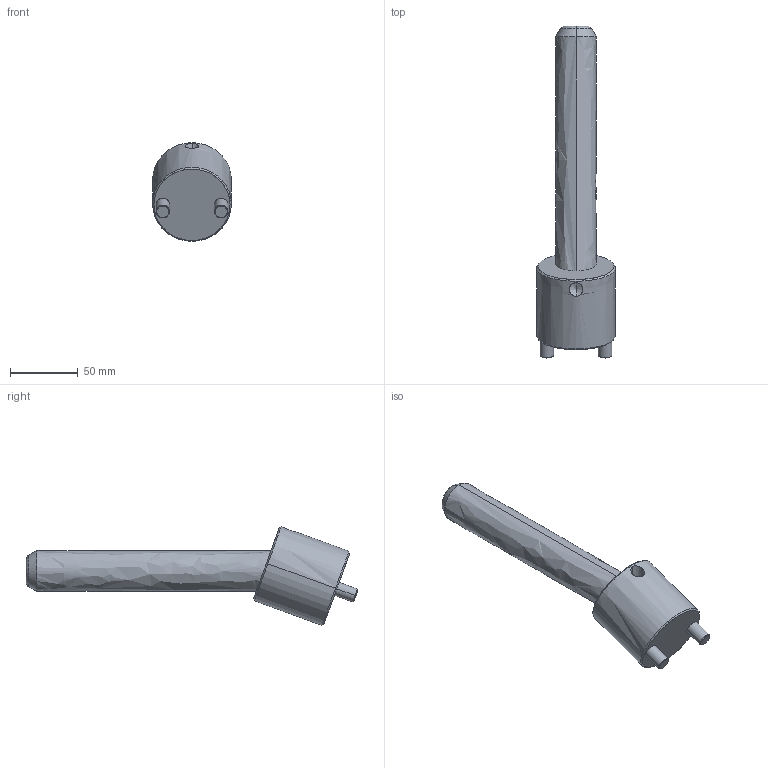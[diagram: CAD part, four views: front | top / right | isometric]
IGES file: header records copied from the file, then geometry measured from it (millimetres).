
Start section: START RECORD GO HERE.
Global section: file name: CI2030175.igs; native system: DASSAULT SYSTEMES CATIA V5 R20 - www.3ds.com; preprocessor: CATIA Version 5 Release 20 ; author: r.borello; organization: CFTORINO; date: 20190624.084603; units: millimetre
Bounding box: 58 x 244.37 x 72.63 mm (x, y, z)
Surface area: 42524.4 mm2 (no closed solid volume)
Topology: 0 solids, 0 shells, 39 faces, 162 edges, 160 vertices
Faces by surface type: revolution 32, plane 7
